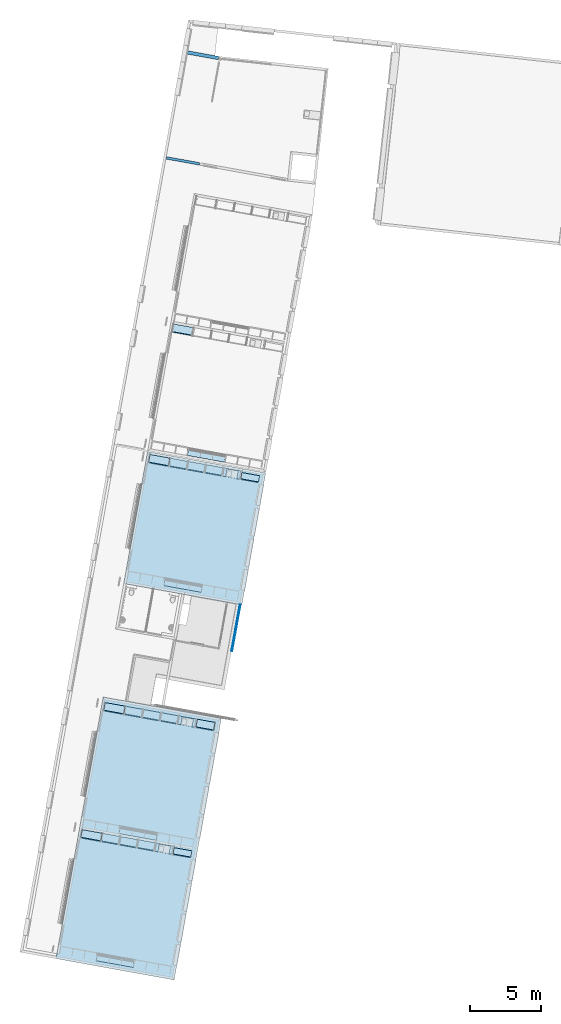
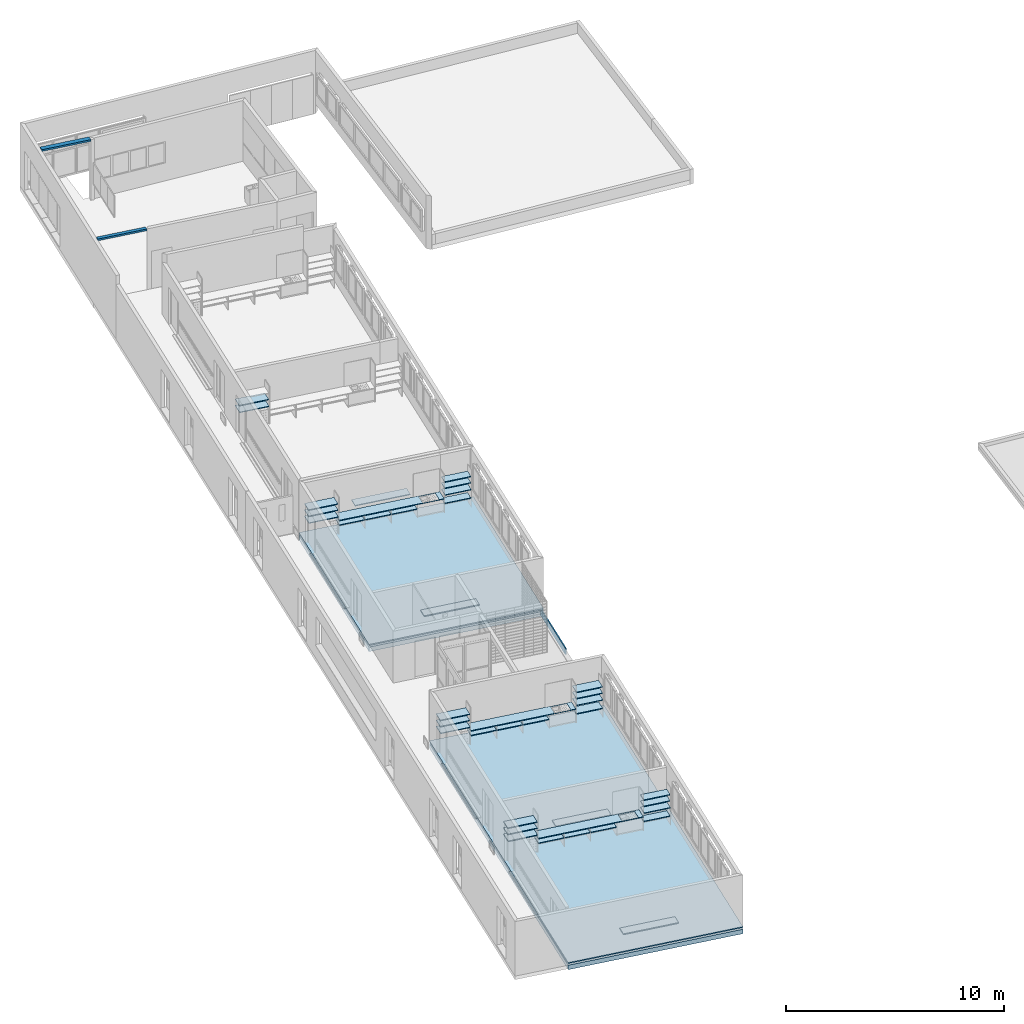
# One storey, part 2 of 52: 44 slabs, 2 beams, 2 elements without a shape of their own.
"""IFC2X3 building model written with IfcOpenShell, lengths in metres."""

from ifc_helpers import new_model, entity, si_unit, converted_unit, derived_unit, money_unit, direction, frame, frame_2d, origin_with_axes, place, context, subcontext, project, spatial, polyline, rectangle, outline, extrude, material, layer, layer_set, layer_usage, type_object, element, aggregate, save


model = new_model("IFC2X3")

# Units and contexts
model_context = context("Model", 3, precision=1e-05, world=origin_with_axes(), true_north=direction((0.0, 1.0)))
body_context = subcontext(model_context, "Body", "Model", "MODEL_VIEW")
ifc_project = project(units=[si_unit("LENGTHUNIT", "METRE"), si_unit("AREAUNIT", "SQUARE_METRE"), si_unit("VOLUMEUNIT", "CUBIC_METRE"), converted_unit("PLANEANGLEUNIT", "DEGREE", entity("IfcPlaneAngleMeasure", 0.0174532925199), si_unit("PLANEANGLEUNIT", "RADIAN"), dimensions=[0, 0, 0, 0, 0, 0, 0]), money_unit("CHF"), converted_unit("TIMEUNIT", "Year", entity("IfcTimeMeasure", 31556926.0), si_unit("TIMEUNIT", "SECOND"), dimensions=[0, 0, 1, 0, 0, 0, 0]), si_unit("MASSUNIT", "GRAM", prefix="KILO"), si_unit("THERMODYNAMICTEMPERATUREUNIT", "DEGREE_CELSIUS"), si_unit("LUMINOUSINTENSITYUNIT", "LUMEN"), si_unit("ENERGYUNIT", "JOULE", prefix="MEGA"), derived_unit("THERMALCONDUCTANCEUNIT", [(si_unit("POWERUNIT", "WATT"), 1), (si_unit("LENGTHUNIT", "METRE"), -1), (si_unit("THERMODYNAMICTEMPERATUREUNIT", "KELVIN"), -1)]), derived_unit("SPECIFICHEATCAPACITYUNIT", [(si_unit("ENERGYUNIT", "JOULE"), 1), (si_unit("MASSUNIT", "GRAM", prefix="KILO"), -1), (si_unit("THERMODYNAMICTEMPERATUREUNIT", "KELVIN"), -1)]), derived_unit("MASSDENSITYUNIT", [(si_unit("MASSUNIT", "GRAM", prefix="KILO"), 1), (si_unit("VOLUMEUNIT", "CUBIC_METRE"), -1)])], contexts=[model_context])

# Site, building, storey
site_placement = place(None, frame((0.0, 0.0, 0.0), z_axis=(0.0, 0.0, 1.0), x_axis=(-0.177771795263, -0.984071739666, 0.0)))
site = spatial("IfcSite", under=ifc_project, at=site_placement, Name="Site", CompositionType="ELEMENT")
building_placement = place(site_placement, origin_with_axes())
building = spatial("IfcBuilding", under=site, at=building_placement, Name="Bâtiment", CompositionType="ELEMENT")
storey_placement = place(building_placement, frame((0.0, 0.0, 3.2), z_axis=(0.0, 0.0, 1.0), x_axis=(1.0, 0.0, 0.0)))
storey = spatial("IfcBuildingStorey", under=building, at=storey_placement, Name="R+1", CompositionType="ELEMENT", Elevation=3.2)

# Beams
ifc_material_1 = material(Name="_BA banché")
beam_type_1 = type_object("IfcBeamType", Name="_BA banché 240 x 100", PredefinedType="NOTDEFINED")
beam_1_placement = place(storey_placement, frame((100.176126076, -159.017107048, 3.4), z_axis=(0.0, 0.0, 1.0), x_axis=(1.0, 0.0, 0.0)))
element("IfcBeam", 1, at=beam_1_placement, inside=storey, type_object=beam_type_1, material=ifc_material_1, Name="POUTRE", ObjectType="BEAM", context=body_context, shape_type="SweptSolid", body=[
    extrude(rectangle(XDim=0.1, YDim=0.24, at=frame_2d((-0.05, 0.0), x_axis=(1.0, 0.0))), frame((0.0, 0.0, 0.0), z_axis=(0.0, 1.0, 0.0), x_axis=(0.0, 0.0, 1.0)), (0.0, 0.0, 1.0), 2.39005655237),
])
beam_type_2 = type_object("IfcBeamType", Name="_BA banché 180 x 100", PredefinedType="NOTDEFINED")
beam_2_placement = place(storey_placement, frame((107.794841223, -159.017107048, 3.4), z_axis=(0.0, 0.0, 1.0), x_axis=(1.0, 0.0, 0.0)))
element("IfcBeam", 2, at=beam_2_placement, inside=storey, type_object=beam_type_2, material=ifc_material_1, Name="POUTRE", ObjectType="BEAM", context=body_context, shape_type="SweptSolid", body=[
    extrude(rectangle(XDim=0.1, YDim=0.18, at=frame_2d((-0.05, 0.0), x_axis=(1.0, 0.0))), frame((0.0, 0.0, 0.0), z_axis=(0.0, 1.0, 0.0), x_axis=(0.0, 0.0, 1.0)), (0.0, 0.0, 1.0), 2.39005655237),
])

# Slabs
ifc_material_2 = material(Name="_Bois contreplaqué")
ifc_layer_1 = layer(ifc_material_2, 0.04, ventilated="UNKNOWN")
ifc_layer_set_1 = layer_set([ifc_layer_1], Name="_Bois contreplaqué 0.04")
ifc_layer_usage_1 = layer_usage(ifc_layer_set_1, "AXIS3", "NEGATIVE", 0.04)
slab_type_1 = type_object("IfcSlabType", Name="_Bois contreplaqué 40", PredefinedType="FLOOR")
slab_1_placement = place(storey_placement, frame((128.784841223, -148.506151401, 1.0), z_axis=(0.0, 0.0, 1.0), x_axis=(1.0, 0.0, 0.0)))
element("IfcSlab", 3, at=slab_1_placement, inside=storey, type_object=slab_type_1, material=ifc_layer_usage_1, Name="tablette fd classe fx", PredefinedType="FLOOR", context=body_context, shape_type="SweptSolid", body=[
    extrude(outline(polyline([(0.0, 0.0), (0.0, -1.28), (0.500000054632, -1.28), (0.500000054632, 0.0), (0.0, 0.0)])), frame((0.0, 0.0, -0.04), z_axis=(0.0, 0.0, 1.0), x_axis=(1.0, 0.0, 0.0)), (0.0, 0.0, 1.0), 0.04),
])
ifc_layer_usage_2 = layer_usage(ifc_layer_set_1, "AXIS3", "NEGATIVE", 0.04)
slab_2_placement = place(storey_placement, frame((128.684841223, -154.978236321, 1.0), z_axis=(0.0, 0.0, 1.0), x_axis=(1.0, 0.0, 0.0)))
element("IfcSlab", 4, at=slab_2_placement, inside=storey, type_object=slab_type_1, material=ifc_layer_usage_2, Name="tablette fd classe fx", PredefinedType="FLOOR", context=body_context, shape_type="SweptSolid", body=[
    extrude(outline(polyline([(0.0, 0.0), (0.0, -1.43991508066), (0.600000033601, -1.43991508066), (0.600000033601, 0.0), (0.0, 0.0)])), frame((0.0, 0.0, -0.04), z_axis=(0.0, 0.0, 1.0), x_axis=(1.0, 0.0, 0.0)), (0.0, 0.0, 1.0), 0.04),
])
ifc_layer_usage_3 = layer_usage(ifc_layer_set_1, "AXIS3", "NEGATIVE", 0.04)
slab_3_placement = place(storey_placement, frame((128.684841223, -153.679193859, 0.5), z_axis=(0.0, 0.0, 1.0), x_axis=(1.0, 0.0, 0.0)))
element("IfcSlab", 5, at=slab_3_placement, inside=storey, type_object=slab_type_1, material=ifc_layer_usage_3, Name="tablette fd classe", PredefinedType="FLOOR", context=body_context, shape_type="SweptSolid", body=[
    extrude(outline(polyline([(0.0, 0.0), (0.0, -1.24004246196), (0.550000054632, -1.24004246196), (0.550000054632, 0.0), (0.0, 0.0)])), frame((0.0, 0.0, -0.04), z_axis=(0.0, 0.0, 1.0), x_axis=(1.0, 0.0, 0.0)), (0.0, 0.0, 1.0), 0.04),
])
ifc_layer_usage_4 = layer_usage(ifc_layer_set_1, "AXIS3", "NEGATIVE", 0.04)
slab_4_placement = place(storey_placement, frame((128.684841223, -152.401193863, 0.5), z_axis=(0.0, 0.0, 1.0), x_axis=(1.0, 0.0, 0.0)))
element("IfcSlab", 6, at=slab_4_placement, inside=storey, type_object=slab_type_1, material=ifc_layer_usage_4, Name="tablette fd classe", PredefinedType="FLOOR", context=body_context, shape_type="SweptSolid", body=[
    extrude(outline(polyline([(0.0, 0.0), (0.0, -1.24004246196), (0.550000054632, -1.24004246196), (0.550000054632, 0.0), (0.0, 0.0)])), frame((0.0, 0.0, -0.04), z_axis=(0.0, 0.0, 1.0), x_axis=(1.0, 0.0, 0.0)), (0.0, 0.0, 1.0), 0.04),
])
ifc_layer_usage_5 = layer_usage(ifc_layer_set_1, "AXIS3", "NEGATIVE", 0.04)
slab_5_placement = place(storey_placement, frame((128.684841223, -151.123151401, 0.5), z_axis=(0.0, 0.0, 1.0), x_axis=(1.0, 0.0, 0.0)))
element("IfcSlab", 7, at=slab_5_placement, inside=storey, type_object=slab_type_1, material=ifc_layer_usage_5, Name="tablette fd classe", PredefinedType="FLOOR", context=body_context, shape_type="SweptSolid", body=[
    extrude(outline(polyline([(0.0, 0.0), (0.0, -1.24004246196), (0.550000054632, -1.24004246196), (0.550000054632, 0.0), (0.0, 0.0)])), frame((0.0, 0.0, -0.04), z_axis=(0.0, 0.0, 1.0), x_axis=(1.0, 0.0, 0.0)), (0.0, 0.0, 1.0), 0.04),
])
ifc_layer_usage_6 = layer_usage(ifc_layer_set_1, "AXIS3", "NEGATIVE", 0.04)
slab_6_placement = place(storey_placement, frame((128.784841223, -148.506151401, 0.5), z_axis=(0.0, 0.0, 1.0), x_axis=(1.0, 0.0, 0.0)))
element("IfcSlab", 8, at=slab_6_placement, inside=storey, type_object=slab_type_1, material=ifc_layer_usage_6, Name="tablette fd classe", PredefinedType="FLOOR", context=body_context, shape_type="SweptSolid", body=[
    extrude(outline(polyline([(0.0, 0.0), (0.0, -1.28), (0.450000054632, -1.28), (0.450000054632, 0.0), (0.0, 0.0)])), frame((0.0, 0.0, -0.04), z_axis=(0.0, 0.0, 1.0), x_axis=(1.0, 0.0, 0.0)), (0.0, 0.0, 1.0), 0.04),
])
ifc_layer_usage_7 = layer_usage(ifc_layer_set_1, "AXIS3", "NEGATIVE", 0.04)
slab_7_placement = place(storey_placement, frame((128.784841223, -148.506151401, 1.7), z_axis=(0.0, 0.0, 1.0), x_axis=(1.0, 0.0, 0.0)))
element("IfcSlab", 9, at=slab_7_placement, inside=storey, type_object=slab_type_1, material=ifc_layer_usage_7, Name="tablette fd classe", PredefinedType="FLOOR", context=body_context, shape_type="SweptSolid", body=[
    extrude(outline(polyline([(0.0, 0.0), (0.0, -1.28), (0.450000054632, -1.28), (0.450000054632, 0.0), (0.0, 0.0)])), frame((0.0, 0.0, -0.04), z_axis=(0.0, 0.0, 1.0), x_axis=(1.0, 0.0, 0.0)), (0.0, 0.0, 1.0), 0.04),
])
ifc_layer_usage_8 = layer_usage(ifc_layer_set_1, "AXIS3", "NEGATIVE", 0.04)
slab_8_placement = place(storey_placement, frame((128.684841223, -154.978151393, 1.7), z_axis=(0.0, 0.0, 1.0), x_axis=(1.0, 0.0, 0.0)))
element("IfcSlab", 10, at=slab_8_placement, inside=storey, type_object=slab_type_1, material=ifc_layer_usage_8, Name="tablette fd classe", PredefinedType="FLOOR", context=body_context, shape_type="SweptSolid", body=[
    extrude(outline(polyline([(0.0, 0.0), (0.0, -1.44000000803), (0.550000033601, -1.44000000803), (0.550000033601, 0.0), (0.0, 0.0)])), frame((0.0, 0.0, -0.04), z_axis=(0.0, 0.0, 1.0), x_axis=(1.0, 0.0, 0.0)), (0.0, 0.0, 1.0), 0.04),
])
ifc_layer_usage_9 = layer_usage(ifc_layer_set_1, "AXIS3", "NEGATIVE", 0.04)
slab_9_placement = place(storey_placement, frame((128.784841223, -148.506151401, 1.35), z_axis=(0.0, 0.0, 1.0), x_axis=(1.0, 0.0, 0.0)))
element("IfcSlab", 11, at=slab_9_placement, inside=storey, type_object=slab_type_1, material=ifc_layer_usage_9, Name="tablette fd classe", PredefinedType="FLOOR", context=body_context, shape_type="SweptSolid", body=[
    extrude(outline(polyline([(0.0, 0.0), (0.0, -1.28), (0.450000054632, -1.28), (0.450000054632, 0.0), (0.0, 0.0)])), frame((0.0, 0.0, -0.04), z_axis=(0.0, 0.0, 1.0), x_axis=(1.0, 0.0, 0.0)), (0.0, 0.0, 1.0), 0.04),
])
ifc_layer_usage_10 = layer_usage(ifc_layer_set_1, "AXIS3", "NEGATIVE", 0.04)
slab_10_placement = place(storey_placement, frame((128.684841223, -154.978151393, 1.35), z_axis=(0.0, 0.0, 1.0), x_axis=(1.0, 0.0, 0.0)))
element("IfcSlab", 12, at=slab_10_placement, inside=storey, type_object=slab_type_1, material=ifc_layer_usage_10, Name="tablette fd classe", PredefinedType="FLOOR", context=body_context, shape_type="SweptSolid", body=[
    extrude(outline(polyline([(0.0, 0.0), (0.0, -1.44000000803), (0.550000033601, -1.44000000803), (0.550000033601, 0.0), (0.0, 0.0)])), frame((0.0, 0.0, -0.04), z_axis=(0.0, 0.0, 1.0), x_axis=(1.0, 0.0, 0.0)), (0.0, 0.0, 1.0), 0.04),
])
ifc_layer_usage_11 = layer_usage(ifc_layer_set_1, "AXIS3", "NEGATIVE", 0.04)
slab_11_placement = place(storey_placement, frame((119.284841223, -154.978236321, 1.0), z_axis=(0.0, 0.0, 1.0), x_axis=(1.0, 0.0, 0.0)))
element("IfcSlab", 13, at=slab_11_placement, inside=storey, type_object=slab_type_1, material=ifc_layer_usage_11, Name="tablette fd classe fx", PredefinedType="FLOOR", context=body_context, shape_type="SweptSolid", body=[
    extrude(outline(polyline([(0.0, 0.0), (0.0, -1.43991508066), (0.600000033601, -1.43991508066), (0.600000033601, 0.0), (0.0, 0.0)])), frame((0.0, 0.0, -0.04), z_axis=(0.0, 0.0, 1.0), x_axis=(1.0, 0.0, 0.0)), (0.0, 0.0, 1.0), 0.04),
])
ifc_layer_usage_12 = layer_usage(ifc_layer_set_1, "AXIS3", "NEGATIVE", 0.04)
slab_12_placement = place(storey_placement, frame((119.284841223, -154.978151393, 1.35), z_axis=(0.0, 0.0, 1.0), x_axis=(1.0, 0.0, 0.0)))
element("IfcSlab", 14, at=slab_12_placement, inside=storey, type_object=slab_type_1, material=ifc_layer_usage_12, Name="tablette fd classe", PredefinedType="FLOOR", context=body_context, shape_type="SweptSolid", body=[
    extrude(outline(polyline([(0.0, 0.0), (0.0, -1.44000000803), (0.550000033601, -1.44000000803), (0.550000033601, 0.0), (0.0, 0.0)])), frame((0.0, 0.0, -0.04), z_axis=(0.0, 0.0, 1.0), x_axis=(1.0, 0.0, 0.0)), (0.0, 0.0, 1.0), 0.04),
])
ifc_layer_usage_13 = layer_usage(ifc_layer_set_1, "AXIS3", "NEGATIVE", 0.04)
slab_13_placement = place(storey_placement, frame((128.684841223, -154.938236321, 0.8), z_axis=(0.0, 0.0, 1.0), x_axis=(1.0, 0.0, 0.0)))
element("IfcSlab", 15, at=slab_13_placement, inside=storey, type_object=slab_type_1, material=ifc_layer_usage_13, Name="plan-travail classe", PredefinedType="FLOOR", context=body_context, shape_type="SweptSolid", body=[
    extrude(outline(polyline([(0.0, 0.0), (0.600000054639, 0.0), (0.600000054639, 5.11208491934), (0.0, 5.11208491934), (0.0, 0.0)]), holes=[polyline([(0.595000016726, 4.87308491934), (0.595000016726, 4.07308491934), (0.0450000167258, 4.07308491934), (0.0450000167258, 4.87308491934), (0.595000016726, 4.87308491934)])]), frame((0.0, 0.0, -0.04), z_axis=(0.0, 0.0, 1.0), x_axis=(1.0, 0.0, 0.0)), (0.0, 0.0, 1.0), 0.04),
])
ifc_layer_usage_14 = layer_usage(ifc_layer_set_1, "AXIS3", "NEGATIVE", 0.04)
slab_14_placement = place(storey_placement, frame((155.69984114, -153.679193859, 0.5), z_axis=(0.0, 0.0, 1.0), x_axis=(1.0, 0.0, 0.0)))
element("IfcSlab", 16, at=slab_14_placement, inside=storey, type_object=slab_type_1, material=ifc_layer_usage_14, Name="tablette fd classe", PredefinedType="FLOOR", context=body_context, shape_type="SweptSolid", body=[
    extrude(outline(polyline([(0.0, 0.0), (0.0, -1.24004246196), (0.550000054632, -1.24004246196), (0.550000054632, 0.0), (0.0, 0.0)])), frame((0.0, 0.0, -0.04), z_axis=(0.0, 0.0, 1.0), x_axis=(1.0, 0.0, 0.0)), (0.0, 0.0, 1.0), 0.04),
])
ifc_layer_usage_15 = layer_usage(ifc_layer_set_1, "AXIS3", "NEGATIVE", 0.04)
slab_15_placement = place(storey_placement, frame((155.69984114, -154.978151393, 1.35), z_axis=(0.0, 0.0, 1.0), x_axis=(1.0, 0.0, 0.0)))
element("IfcSlab", 17, at=slab_15_placement, inside=storey, type_object=slab_type_1, material=ifc_layer_usage_15, Name="tablette fd classe", PredefinedType="FLOOR", context=body_context, shape_type="SweptSolid", body=[
    extrude(outline(polyline([(0.0, 0.0), (0.0, -1.44000000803), (0.550000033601, -1.44000000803), (0.550000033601, 0.0), (0.0, 0.0)])), frame((0.0, 0.0, -0.04), z_axis=(0.0, 0.0, 1.0), x_axis=(1.0, 0.0, 0.0)), (0.0, 0.0, 1.0), 0.04),
])
ifc_layer_usage_16 = layer_usage(ifc_layer_set_1, "AXIS3", "NEGATIVE", 0.04)
slab_16_placement = place(storey_placement, frame((155.79984114, -148.506151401, 1.35), z_axis=(0.0, 0.0, 1.0), x_axis=(1.0, 0.0, 0.0)))
element("IfcSlab", 18, at=slab_16_placement, inside=storey, type_object=slab_type_1, material=ifc_layer_usage_16, Name="tablette fd classe", PredefinedType="FLOOR", context=body_context, shape_type="SweptSolid", body=[
    extrude(outline(polyline([(0.0, 0.0), (0.0, -1.28), (0.450000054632, -1.28), (0.450000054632, 0.0), (0.0, 0.0)])), frame((0.0, 0.0, -0.04), z_axis=(0.0, 0.0, 1.0), x_axis=(1.0, 0.0, 0.0)), (0.0, 0.0, 1.0), 0.04),
])
ifc_layer_usage_17 = layer_usage(ifc_layer_set_1, "AXIS3", "NEGATIVE", 0.04)
slab_17_placement = place(storey_placement, frame((155.69984114, -154.978236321, 1.0), z_axis=(0.0, 0.0, 1.0), x_axis=(1.0, 0.0, 0.0)))
element("IfcSlab", 19, at=slab_17_placement, inside=storey, type_object=slab_type_1, material=ifc_layer_usage_17, Name="tablette fd classe fx", PredefinedType="FLOOR", context=body_context, shape_type="SweptSolid", body=[
    extrude(outline(polyline([(0.0, 0.0), (0.0, -1.43991508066), (0.600000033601, -1.43991508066), (0.600000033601, 0.0), (0.0, 0.0)])), frame((0.0, 0.0, -0.04), z_axis=(0.0, 0.0, 1.0), x_axis=(1.0, 0.0, 0.0)), (0.0, 0.0, 1.0), 0.04),
])
ifc_layer_usage_18 = layer_usage(ifc_layer_set_1, "AXIS3", "NEGATIVE", 0.04)
slab_18_placement = place(storey_placement, frame((155.69984114, -152.401193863, 0.5), z_axis=(0.0, 0.0, 1.0), x_axis=(1.0, 0.0, 0.0)))
element("IfcSlab", 20, at=slab_18_placement, inside=storey, type_object=slab_type_1, material=ifc_layer_usage_18, Name="tablette fd classe", PredefinedType="FLOOR", context=body_context, shape_type="SweptSolid", body=[
    extrude(outline(polyline([(0.0, 0.0), (0.0, -1.24004246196), (0.550000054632, -1.24004246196), (0.550000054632, 0.0), (0.0, 0.0)])), frame((0.0, 0.0, -0.04), z_axis=(0.0, 0.0, 1.0), x_axis=(1.0, 0.0, 0.0)), (0.0, 0.0, 1.0), 0.04),
])
ifc_layer_usage_19 = layer_usage(ifc_layer_set_1, "AXIS3", "NEGATIVE", 0.04)
slab_19_placement = place(storey_placement, frame((155.69984114, -154.938236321, 0.8), z_axis=(0.0, 0.0, 1.0), x_axis=(1.0, 0.0, 0.0)))
element("IfcSlab", 21, at=slab_19_placement, inside=storey, type_object=slab_type_1, material=ifc_layer_usage_19, Name="plan-travail classe", PredefinedType="FLOOR", context=body_context, shape_type="SweptSolid", body=[
    extrude(outline(polyline([(0.0, 0.0), (0.600000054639, 0.0), (0.600000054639, 5.11208491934), (0.0, 5.11208491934), (0.0, 0.0)]), holes=[polyline([(0.595000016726, 4.87308491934), (0.595000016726, 4.07308491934), (0.0450000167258, 4.07308491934), (0.0450000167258, 4.87308491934), (0.595000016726, 4.87308491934)])]), frame((0.0, 0.0, -0.04), z_axis=(0.0, 0.0, 1.0), x_axis=(1.0, 0.0, 0.0)), (0.0, 0.0, 1.0), 0.04),
])
ifc_layer_usage_20 = layer_usage(ifc_layer_set_1, "AXIS3", "NEGATIVE", 0.04)
slab_20_placement = place(storey_placement, frame((155.69984114, -154.978151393, 1.7), z_axis=(0.0, 0.0, 1.0), x_axis=(1.0, 0.0, 0.0)))
element("IfcSlab", 22, at=slab_20_placement, inside=storey, type_object=slab_type_1, material=ifc_layer_usage_20, Name="tablette fd classe", PredefinedType="FLOOR", context=body_context, shape_type="SweptSolid", body=[
    extrude(outline(polyline([(0.0, 0.0), (0.0, -1.44000000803), (0.550000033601, -1.44000000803), (0.550000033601, 0.0), (0.0, 0.0)])), frame((0.0, 0.0, -0.04), z_axis=(0.0, 0.0, 1.0), x_axis=(1.0, 0.0, 0.0)), (0.0, 0.0, 1.0), 0.04),
])
ifc_layer_usage_21 = layer_usage(ifc_layer_set_1, "AXIS3", "NEGATIVE", 0.04)
slab_21_placement = place(storey_placement, frame((155.69984114, -151.123151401, 0.5), z_axis=(0.0, 0.0, 1.0), x_axis=(1.0, 0.0, 0.0)))
element("IfcSlab", 23, at=slab_21_placement, inside=storey, type_object=slab_type_1, material=ifc_layer_usage_21, Name="tablette fd classe", PredefinedType="FLOOR", context=body_context, shape_type="SweptSolid", body=[
    extrude(outline(polyline([(0.0, 0.0), (0.0, -1.24004246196), (0.550000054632, -1.24004246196), (0.550000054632, 0.0), (0.0, 0.0)])), frame((0.0, 0.0, -0.04), z_axis=(0.0, 0.0, 1.0), x_axis=(1.0, 0.0, 0.0)), (0.0, 0.0, 1.0), 0.04),
])
ifc_layer_usage_22 = layer_usage(ifc_layer_set_1, "AXIS3", "NEGATIVE", 0.04)
slab_22_placement = place(storey_placement, frame((155.79984114, -148.506151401, 0.5), z_axis=(0.0, 0.0, 1.0), x_axis=(1.0, 0.0, 0.0)))
element("IfcSlab", 24, at=slab_22_placement, inside=storey, type_object=slab_type_1, material=ifc_layer_usage_22, Name="tablette fd classe", PredefinedType="FLOOR", context=body_context, shape_type="SweptSolid", body=[
    extrude(outline(polyline([(0.0, 0.0), (0.0, -1.28), (0.450000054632, -1.28), (0.450000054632, 0.0), (0.0, 0.0)])), frame((0.0, 0.0, -0.04), z_axis=(0.0, 0.0, 1.0), x_axis=(1.0, 0.0, 0.0)), (0.0, 0.0, 1.0), 0.04),
])
ifc_layer_usage_23 = layer_usage(ifc_layer_set_1, "AXIS3", "NEGATIVE", 0.04)
slab_23_placement = place(storey_placement, frame((155.79984114, -148.506151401, 1.7), z_axis=(0.0, 0.0, 1.0), x_axis=(1.0, 0.0, 0.0)))
element("IfcSlab", 25, at=slab_23_placement, inside=storey, type_object=slab_type_1, material=ifc_layer_usage_23, Name="tablette fd classe", PredefinedType="FLOOR", context=body_context, shape_type="SweptSolid", body=[
    extrude(outline(polyline([(0.0, 0.0), (0.0, -1.28), (0.450000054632, -1.28), (0.450000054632, 0.0), (0.0, 0.0)])), frame((0.0, 0.0, -0.04), z_axis=(0.0, 0.0, 1.0), x_axis=(1.0, 0.0, 0.0)), (0.0, 0.0, 1.0), 0.04),
])
ifc_layer_usage_24 = layer_usage(ifc_layer_set_1, "AXIS3", "NEGATIVE", 0.04)
slab_24_placement = place(storey_placement, frame((155.79984114, -148.506151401, 1.0), z_axis=(0.0, 0.0, 1.0), x_axis=(1.0, 0.0, 0.0)))
element("IfcSlab", 26, at=slab_24_placement, inside=storey, type_object=slab_type_1, material=ifc_layer_usage_24, Name="tablette fd classe fx", PredefinedType="FLOOR", context=body_context, shape_type="SweptSolid", body=[
    extrude(outline(polyline([(0.0, 0.0), (0.0, -1.28), (0.500000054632, -1.28), (0.500000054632, 0.0), (0.0, 0.0)])), frame((0.0, 0.0, -0.04), z_axis=(0.0, 0.0, 1.0), x_axis=(1.0, 0.0, 0.0)), (0.0, 0.0, 1.0), 0.04),
])
ifc_layer_usage_25 = layer_usage(ifc_layer_set_1, "AXIS3", "NEGATIVE", 0.04)
slab_25_placement = place(storey_placement, frame((146.549841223, -154.938236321, 0.8), z_axis=(0.0, 0.0, 1.0), x_axis=(1.0, 0.0, 0.0)))
element("IfcSlab", 27, at=slab_25_placement, inside=storey, type_object=slab_type_1, material=ifc_layer_usage_25, Name="plan-travail classe", PredefinedType="FLOOR", context=body_context, shape_type="SweptSolid", body=[
    extrude(outline(polyline([(0.0, 0.0), (0.600000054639, 0.0), (0.600000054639, 5.11208491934), (0.0, 5.11208491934), (0.0, 0.0)]), holes=[polyline([(0.595000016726, 4.87308491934), (0.595000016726, 4.07308491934), (0.0450000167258, 4.07308491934), (0.0450000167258, 4.87308491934), (0.595000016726, 4.87308491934)])]), frame((0.0, 0.0, -0.04), z_axis=(0.0, 0.0, 1.0), x_axis=(1.0, 0.0, 0.0)), (0.0, 0.0, 1.0), 0.04),
])
ifc_layer_usage_26 = layer_usage(ifc_layer_set_1, "AXIS3", "NEGATIVE", 0.04)
slab_26_placement = place(storey_placement, frame((146.549841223, -154.978236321, 1.0), z_axis=(0.0, 0.0, 1.0), x_axis=(1.0, 0.0, 0.0)))
element("IfcSlab", 28, at=slab_26_placement, inside=storey, type_object=slab_type_1, material=ifc_layer_usage_26, Name="tablette fd classe fx", PredefinedType="FLOOR", context=body_context, shape_type="SweptSolid", body=[
    extrude(outline(polyline([(0.0, 0.0), (0.0, -1.43991508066), (0.600000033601, -1.43991508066), (0.600000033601, 0.0), (0.0, 0.0)])), frame((0.0, 0.0, -0.04), z_axis=(0.0, 0.0, 1.0), x_axis=(1.0, 0.0, 0.0)), (0.0, 0.0, 1.0), 0.04),
])
ifc_layer_usage_27 = layer_usage(ifc_layer_set_1, "AXIS3", "NEGATIVE", 0.04)
slab_27_placement = place(storey_placement, frame((146.549841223, -148.506151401, 1.0), z_axis=(0.0, 0.0, 1.0), x_axis=(1.0, 0.0, 0.0)))
element("IfcSlab", 29, at=slab_27_placement, inside=storey, type_object=slab_type_1, material=ifc_layer_usage_27, Name="tablette fd classe fx", PredefinedType="FLOOR", context=body_context, shape_type="SweptSolid", body=[
    extrude(outline(polyline([(0.0, 0.0), (0.0, -1.28), (0.600000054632, -1.28), (0.600000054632, 0.0), (0.0, 0.0)])), frame((0.0, 0.0, -0.04), z_axis=(0.0, 0.0, 1.0), x_axis=(1.0, 0.0, 0.0)), (0.0, 0.0, 1.0), 0.04),
])
ifc_layer_usage_28 = layer_usage(ifc_layer_set_1, "AXIS3", "NEGATIVE", 0.04)
slab_28_placement = place(storey_placement, frame((146.549841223, -154.978151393, 1.35), z_axis=(0.0, 0.0, 1.0), x_axis=(1.0, 0.0, 0.0)))
element("IfcSlab", 30, at=slab_28_placement, inside=storey, type_object=slab_type_1, material=ifc_layer_usage_28, Name="tablette fd classe", PredefinedType="FLOOR", context=body_context, shape_type="SweptSolid", body=[
    extrude(outline(polyline([(0.0, 0.0), (0.0, -1.44000000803), (0.550000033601, -1.44000000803), (0.550000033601, 0.0), (0.0, 0.0)])), frame((0.0, 0.0, -0.04), z_axis=(0.0, 0.0, 1.0), x_axis=(1.0, 0.0, 0.0)), (0.0, 0.0, 1.0), 0.04),
])
ifc_layer_usage_29 = layer_usage(ifc_layer_set_1, "AXIS3", "NEGATIVE", 0.04)
slab_29_placement = place(storey_placement, frame((146.549841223, -148.506151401, 1.35), z_axis=(0.0, 0.0, 1.0), x_axis=(1.0, 0.0, 0.0)))
element("IfcSlab", 31, at=slab_29_placement, inside=storey, type_object=slab_type_1, material=ifc_layer_usage_29, Name="tablette fd classe", PredefinedType="FLOOR", context=body_context, shape_type="SweptSolid", body=[
    extrude(outline(polyline([(0.0, 0.0), (0.0, -1.28), (0.550000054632, -1.28), (0.550000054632, 0.0), (0.0, 0.0)])), frame((0.0, 0.0, -0.04), z_axis=(0.0, 0.0, 1.0), x_axis=(1.0, 0.0, 0.0)), (0.0, 0.0, 1.0), 0.04),
])
ifc_layer_usage_30 = layer_usage(ifc_layer_set_1, "AXIS3", "NEGATIVE", 0.04)
slab_30_placement = place(storey_placement, frame((146.549841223, -154.978151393, 1.7), z_axis=(0.0, 0.0, 1.0), x_axis=(1.0, 0.0, 0.0)))
element("IfcSlab", 32, at=slab_30_placement, inside=storey, type_object=slab_type_1, material=ifc_layer_usage_30, Name="tablette fd classe", PredefinedType="FLOOR", context=body_context, shape_type="SweptSolid", body=[
    extrude(outline(polyline([(0.0, 0.0), (0.0, -1.44000000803), (0.550000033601, -1.44000000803), (0.550000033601, 0.0), (0.0, 0.0)])), frame((0.0, 0.0, -0.04), z_axis=(0.0, 0.0, 1.0), x_axis=(1.0, 0.0, 0.0)), (0.0, 0.0, 1.0), 0.04),
])
ifc_layer_usage_31 = layer_usage(ifc_layer_set_1, "AXIS3", "NEGATIVE", 0.04)
slab_31_placement = place(storey_placement, frame((146.549841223, -148.506151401, 1.7), z_axis=(0.0, 0.0, 1.0), x_axis=(1.0, 0.0, 0.0)))
element("IfcSlab", 33, at=slab_31_placement, inside=storey, type_object=slab_type_1, material=ifc_layer_usage_31, Name="tablette fd classe", PredefinedType="FLOOR", context=body_context, shape_type="SweptSolid", body=[
    extrude(outline(polyline([(0.0, 0.0), (0.0, -1.28), (0.550000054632, -1.28), (0.550000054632, 0.0), (0.0, 0.0)])), frame((0.0, 0.0, -0.04), z_axis=(0.0, 0.0, 1.0), x_axis=(1.0, 0.0, 0.0)), (0.0, 0.0, 1.0), 0.04),
])
ifc_layer_usage_32 = layer_usage(ifc_layer_set_1, "AXIS3", "NEGATIVE", 0.04)
slab_32_placement = place(storey_placement, frame((146.549841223, -148.506151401, 0.5), z_axis=(0.0, 0.0, 1.0), x_axis=(1.0, 0.0, 0.0)))
element("IfcSlab", 34, at=slab_32_placement, inside=storey, type_object=slab_type_1, material=ifc_layer_usage_32, Name="tablette fd classe", PredefinedType="FLOOR", context=body_context, shape_type="SweptSolid", body=[
    extrude(outline(polyline([(0.0, 0.0), (0.0, -1.28), (0.550000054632, -1.28), (0.550000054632, 0.0), (0.0, 0.0)])), frame((0.0, 0.0, -0.04), z_axis=(0.0, 0.0, 1.0), x_axis=(1.0, 0.0, 0.0)), (0.0, 0.0, 1.0), 0.04),
])
ifc_layer_usage_33 = layer_usage(ifc_layer_set_1, "AXIS3", "NEGATIVE", 0.04)
slab_33_placement = place(storey_placement, frame((146.549841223, -151.123151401, 0.5), z_axis=(0.0, 0.0, 1.0), x_axis=(1.0, 0.0, 0.0)))
element("IfcSlab", 35, at=slab_33_placement, inside=storey, type_object=slab_type_1, material=ifc_layer_usage_33, Name="tablette fd classe", PredefinedType="FLOOR", context=body_context, shape_type="SweptSolid", body=[
    extrude(outline(polyline([(0.0, 0.0), (0.0, -1.24004246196), (0.550000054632, -1.24004246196), (0.550000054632, 0.0), (0.0, 0.0)])), frame((0.0, 0.0, -0.04), z_axis=(0.0, 0.0, 1.0), x_axis=(1.0, 0.0, 0.0)), (0.0, 0.0, 1.0), 0.04),
])
ifc_layer_usage_34 = layer_usage(ifc_layer_set_1, "AXIS3", "NEGATIVE", 0.04)
slab_34_placement = place(storey_placement, frame((146.549841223, -152.401193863, 0.5), z_axis=(0.0, 0.0, 1.0), x_axis=(1.0, 0.0, 0.0)))
element("IfcSlab", 36, at=slab_34_placement, inside=storey, type_object=slab_type_1, material=ifc_layer_usage_34, Name="tablette fd classe", PredefinedType="FLOOR", context=body_context, shape_type="SweptSolid", body=[
    extrude(outline(polyline([(0.0, 0.0), (0.0, -1.24004246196), (0.550000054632, -1.24004246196), (0.550000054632, 0.0), (0.0, 0.0)])), frame((0.0, 0.0, -0.04), z_axis=(0.0, 0.0, 1.0), x_axis=(1.0, 0.0, 0.0)), (0.0, 0.0, 1.0), 0.04),
])
ifc_layer_usage_35 = layer_usage(ifc_layer_set_1, "AXIS3", "NEGATIVE", 0.04)
slab_35_placement = place(storey_placement, frame((146.549841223, -153.679193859, 0.5), z_axis=(0.0, 0.0, 1.0), x_axis=(1.0, 0.0, 0.0)))
element("IfcSlab", 37, at=slab_35_placement, inside=storey, type_object=slab_type_1, material=ifc_layer_usage_35, Name="tablette fd classe", PredefinedType="FLOOR", context=body_context, shape_type="SweptSolid", body=[
    extrude(outline(polyline([(0.0, 0.0), (0.0, -1.24004246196), (0.550000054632, -1.24004246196), (0.550000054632, 0.0), (0.0, 0.0)])), frame((0.0, 0.0, -0.04), z_axis=(0.0, 0.0, 1.0), x_axis=(1.0, 0.0, 0.0)), (0.0, 0.0, 1.0), 0.04),
])
ifc_layer_2 = layer(ifc_material_2, 0.05, ventilated="UNKNOWN")
ifc_layer_set_2 = layer_set([ifc_layer_2], Name="_Bois contreplaqué 0.05")
ifc_layer_usage_36 = layer_usage(ifc_layer_set_2, "AXIS3", "NEGATIVE", 0.05)
slab_type_2 = type_object("IfcSlabType", Name="_Bois contreplaqué 50", PredefinedType="FLOOR")
slab_36_placement = place(storey_placement, frame((137.154841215, -153.807151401, 0.7), z_axis=(0.0, 0.0, 1.0), x_axis=(1.0, 0.0, 0.0)))
element("IfcSlab", 38, at=slab_36_placement, inside=storey, type_object=slab_type_2, material=ifc_layer_usage_36, Name="plan-sous tableau", PredefinedType="FLOOR", context=body_context, shape_type="SweptSolid", body=[
    extrude(outline(polyline([(0.0, 0.0), (0.500000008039, 0.0), (0.500000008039, 2.69), (0.0, 2.69), (0.0, 0.0)])), frame((0.0, 0.0, -0.05), z_axis=(0.0, 0.0, 1.0), x_axis=(1.0, 0.0, 0.0)), (0.0, 0.0, 1.0), 0.05),
])
ifc_layer_usage_37 = layer_usage(ifc_layer_set_2, "AXIS3", "NEGATIVE", 0.05)
slab_37_placement = place(storey_placement, frame((127.784841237, -153.807151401, 0.7), z_axis=(0.0, 0.0, 1.0), x_axis=(1.0, 0.0, 0.0)))
element("IfcSlab", 39, at=slab_37_placement, inside=storey, type_object=slab_type_2, material=ifc_layer_usage_37, Name="plan-sous tableau", PredefinedType="FLOOR", context=body_context, shape_type="SweptSolid", body=[
    extrude(outline(polyline([(0.0, 0.0), (0.499999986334, 0.0), (0.499999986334, 2.69), (0.0, 2.69), (0.0, 0.0)])), frame((0.0, 0.0, -0.05), z_axis=(0.0, 0.0, 1.0), x_axis=(1.0, 0.0, 0.0)), (0.0, 0.0, 1.0), 0.05),
])
ifc_layer_usage_38 = layer_usage(ifc_layer_set_2, "AXIS3", "NEGATIVE", 0.05)
slab_38_placement = place(storey_placement, frame((155.019841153, -153.80715293, 0.7), z_axis=(0.0, 0.0, 1.0), x_axis=(1.0, 0.0, 0.0)))
element("IfcSlab", 40, at=slab_38_placement, inside=storey, type_object=slab_type_2, material=ifc_layer_usage_38, Name="plan-sous tableau", PredefinedType="FLOOR", context=body_context, shape_type="SweptSolid", body=[
    extrude(outline(polyline([(0.0, 0.0), (0.49999990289, 0.0), (0.49999990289, 2.69), (0.0, 2.69), (0.0, 0.0)])), frame((0.0, 0.0, -0.05), z_axis=(0.0, 0.0, 1.0), x_axis=(1.0, 0.0, 0.0)), (0.0, 0.0, 1.0), 0.05),
])
ifc_layer_usage_39 = layer_usage(ifc_layer_set_2, "AXIS3", "NEGATIVE", 0.05)
slab_39_placement = place(storey_placement, frame((164.16984107, -153.80715293, 0.7), z_axis=(0.0, 0.0, 1.0), x_axis=(1.0, 0.0, 0.0)))
element("IfcSlab", 41, at=slab_39_placement, inside=storey, type_object=slab_type_2, material=ifc_layer_usage_39, Name="plan-sous tableau", PredefinedType="FLOOR", context=body_context, shape_type="SweptSolid", body=[
    extrude(outline(polyline([(0.0, 0.0), (0.499999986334, 0.0), (0.499999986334, 2.69), (0.0, 2.69), (0.0, 0.0)])), frame((0.0, 0.0, -0.05), z_axis=(0.0, 0.0, 1.0), x_axis=(1.0, 0.0, 0.0)), (0.0, 0.0, 1.0), 0.05),
])
ifc_material_3 = material(Name="Bois - Bardage")
ifc_layer_3 = layer(ifc_material_3, 0.35, ventilated="UNKNOWN")
ifc_layer_set_3 = layer_set([ifc_layer_3], Name="Bois - Bardage 0.35")
ifc_layer_usage_40 = layer_usage(ifc_layer_set_3, "AXIS3", "NEGATIVE", 0.35)
slab_type_3 = type_object("IfcSlabType", Name="Bois - Bardage 350", PredefinedType="FLOOR")
slab_40_placement = place(storey_placement, frame((138.014841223, -148.267151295, 0.0), z_axis=(0.0, 0.0, 1.0), x_axis=(1.0, 0.0, 0.0)))
element("IfcSlab", 42, at=slab_40_placement, inside=storey, type_object=slab_type_3, material=ifc_layer_usage_40, Name="habillage-dalle", PredefinedType="FLOOR", context=body_context, shape_type="SweptSolid", body=[
    extrude(outline(polyline([(0.0, 0.0), (3.34000001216, 6.77037377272e-07), (3.34, 0.0600006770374), (-1.21623031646e-08, 0.06), (0.0, 0.0)])), frame((0.0, 0.0, -0.35), z_axis=(0.0, 0.0, 1.0), x_axis=(1.0, 0.0, 0.0)), (0.0, 0.0, 1.0), 0.35),
])

slab_type_4 = type_object("IfcSlabType", Name="_Dalle 25+15 gris 400", PredefinedType="FLOOR")
slab_41_placement = place(storey_placement, frame((0.0, 0.0, -3.2), z_axis=(0.0, 0.0, 1.0), x_axis=(1.0, 0.0, 0.0)))
slab_41 = element("IfcSlab", 43, at=slab_41_placement, inside=storey, type_object=slab_type_4, Name="Dalle-classe", PredefinedType="FLOOR")
ifc_material_4 = material(Name="_BA banché RAL9007")
slab_type_5 = type_object("IfcSlabType", Name="IFC Extruded", PredefinedType="FLOOR")
slab_42_placement = place(slab_41_placement, frame((165.029841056, -148.117150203, 3.2), z_axis=(0.0, 0.0, 1.0), x_axis=(1.0, 0.0, 0.0)))
slab_42 = element("IfcSlab", 44, at=slab_42_placement, type_object=slab_type_5, material=ifc_material_4, Name="_BA banché RAL9007", PredefinedType="FLOOR", context=body_context, shape_type="SweptSolid", body=[
    extrude(outline(polyline([(0.0, 0.0), (-18.839999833, 0.0), (-18.839999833, -8.50989879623), (0.0, -8.50989879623), (0.0, 0.0)])), frame((0.0, 0.0, -0.4), z_axis=(0.0, 0.0, 1.0), x_axis=(1.0, 0.0, 0.0)), (0.0, 0.0, 1.0), 0.25),
])
ifc_material_5 = material(Name="_Chape")
slab_43_placement = place(slab_41_placement, frame((165.029841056, -148.117150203, 3.2), z_axis=(0.0, 0.0, 1.0), x_axis=(1.0, 0.0, 0.0)))
slab_43 = element("IfcSlab", 45, at=slab_43_placement, type_object=slab_type_5, material=ifc_material_5, Name="_Chape", PredefinedType="FLOOR", context=body_context, shape_type="SweptSolid", body=[
    extrude(outline(polyline([(0.0, 0.0), (-18.839999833, 0.0), (-18.839999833, -8.50989879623), (0.0, -8.50989879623), (0.0, 0.0)])), frame((0.0, 0.0, -0.06), z_axis=(0.0, 0.0, 1.0), x_axis=(1.0, 0.0, 0.0)), (0.0, 0.0, 1.0), 0.06),
])
aggregate(slab_41, [slab_42, slab_43])

slab_44_placement = place(storey_placement, frame((0.0, 0.0, -3.2), z_axis=(0.0, 0.0, 1.0), x_axis=(1.0, 0.0, 0.0)))
slab_44 = element("IfcSlab", 46, at=slab_44_placement, inside=storey, type_object=slab_type_4, Name="Dalle-classe", PredefinedType="FLOOR")
slab_45_placement = place(slab_44_placement, frame((128.504841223, -148.117151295, 3.2), z_axis=(0.0, 0.0, 1.0), x_axis=(1.0, 0.0, 0.0)))
slab_45 = element("IfcSlab", 47, at=slab_45_placement, type_object=slab_type_5, material=ifc_material_4, Name="_BA banché RAL9007", PredefinedType="FLOOR", context=body_context, shape_type="SweptSolid", body=[
    extrude(outline(polyline([(0.0, 0.0), (0.0, -8.51000010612), (9.51, -8.51000010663), (9.51, 0.0), (0.0, 0.0)])), frame((0.0, 0.0, -0.4), z_axis=(0.0, 0.0, 1.0), x_axis=(1.0, 0.0, 0.0)), (0.0, 0.0, 1.0), 0.25),
])
slab_46_placement = place(slab_44_placement, frame((128.504841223, -148.117151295, 3.2), z_axis=(0.0, 0.0, 1.0), x_axis=(1.0, 0.0, 0.0)))
slab_46 = element("IfcSlab", 48, at=slab_46_placement, type_object=slab_type_5, material=ifc_material_5, Name="_Chape", PredefinedType="FLOOR", context=body_context, shape_type="SweptSolid", body=[
    extrude(outline(polyline([(0.0, 0.0), (0.0, -8.51000010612), (9.51, -8.51000010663), (9.51, 0.0), (0.0, 0.0)])), frame((0.0, 0.0, -0.06), z_axis=(0.0, 0.0, 1.0), x_axis=(1.0, 0.0, 0.0)), (0.0, 0.0, 1.0), 0.06),
])
aggregate(slab_44, [slab_45, slab_46])

save(model, "model.ifc")
